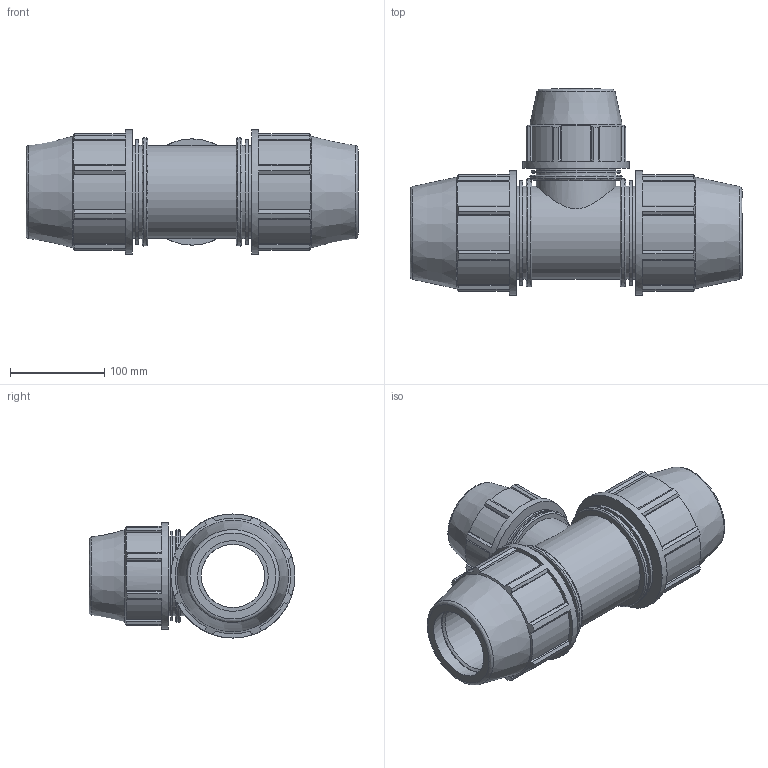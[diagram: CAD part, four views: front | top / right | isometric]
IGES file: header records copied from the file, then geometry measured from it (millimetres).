
Global section: file name: 0734060750630A.ipt; native system: Autodesk Inventor 2015; preprocessor: unknown; author: KIM; date: 20170608.042724; units: millimetre
Bounding box: 353 x 219 x 132 mm (x, y, z)
Volume: 2438051.9 mm3; surface area: 322090.5 mm2
Topology: 1 solids, 1 shells, 211 faces, 593 edges, 400 vertices
Faces by surface type: plane 144, cylinder 41, revolution 20, cone 6
Full cylindrical faces by diameter (mm): 84.75 x3, 95.361 x1, 98.31 x1, 99 x5, 111.395 x2, 113 x1, 114.84 x2, 132 x2
